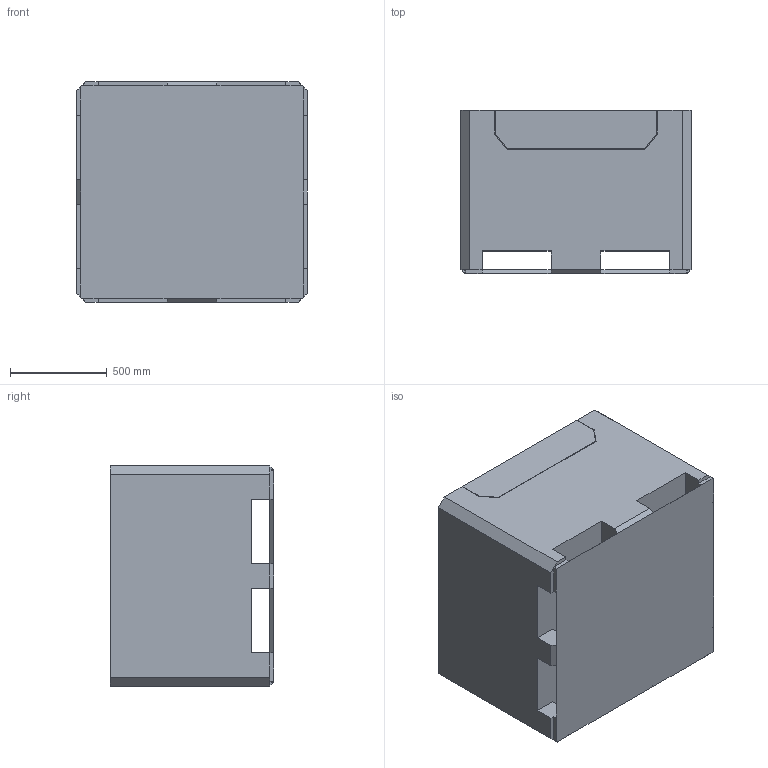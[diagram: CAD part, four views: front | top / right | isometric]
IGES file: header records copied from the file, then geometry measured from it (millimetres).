
Start section: SolidWorks IGES file using analytic representation for surfaces
Global section: file name: C:\Users\bconder\Documents\Production Models\IsoBins\4547-33\4547-33 Block Model.IGS; native system: SolidWorks 2013; preprocessor: SolidWorks 2013; author: bconder; date: 130603.105034; units: inch
Bounding box: 1193.8 x 845.82 x 1143 mm (x, y, z)
Surface area: 12001345.7 mm2 (no closed solid volume)
Topology: 0 solids, 0 shells, 89 faces, 568 edges, 568 vertices
Faces by surface type: bspline 89
